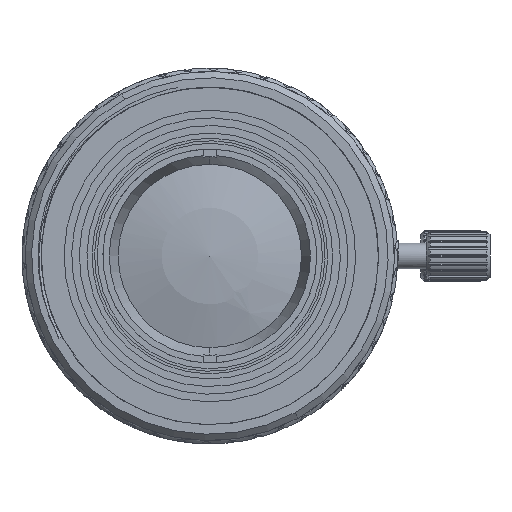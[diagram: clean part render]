
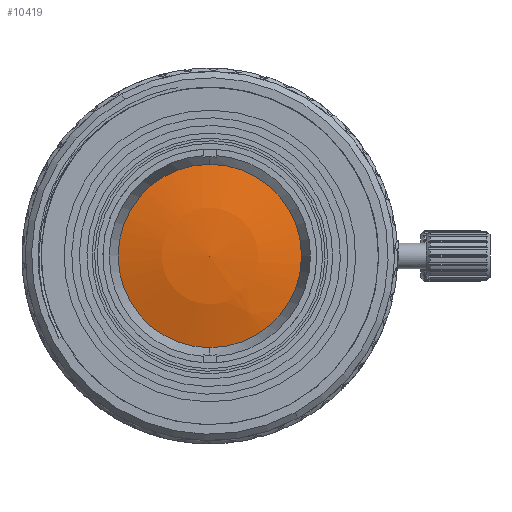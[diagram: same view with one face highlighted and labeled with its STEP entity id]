
A CAD part, left-side view. The second image highlights one B-rep face of the part: STEP entity #10419.
In plain terms, the highlighted spherical face has radius 26.55 mm.
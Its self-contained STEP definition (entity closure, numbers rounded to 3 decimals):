
#689 = CIRCLE ( 'NONE', #25146, 7.5 ) ;
#922 = EDGE_LOOP ( 'NONE', ( #11940, #28597 ) ) ;
#1550 = VERTEX_POINT ( 'NONE', #35426 ) ;
#4228 = AXIS2_PLACEMENT_3D ( 'NONE', #38721, #37772, #31320 ) ;
#4716 = CARTESIAN_POINT ( 'NONE',  ( 1717.993, -1069.949, 0. ) ) ;
#5221 = AXIS2_PLACEMENT_3D ( 'NONE', #4716, #41525, #22676 ) ;
#5725 = CARTESIAN_POINT ( 'NONE',  ( 1692.525, -1074.217, -6.167 ) ) ;
#10419 = ADVANCED_FACE ( 'NONE', ( #15493 ), #34129, .T. ) ;
#11552 = EDGE_CURVE ( 'NONE', #1550, #24506, #689, .T. ) ;
#11940 = ORIENTED_EDGE ( 'NONE', *, *, #11552, .T. ) ;
#14859 = DIRECTION ( 'NONE',  ( -1., 0., 0. ) ) ;
#15493 = FACE_OUTER_BOUND ( 'NONE', #922, .T. ) ;
#19150 = DIRECTION ( 'NONE',  ( 0., 0.569, 0.822 ) ) ;
#22676 = DIRECTION ( 'NONE',  ( 0., -0.569, -0.822 ) ) ;
#24506 = VERTEX_POINT ( 'NONE', #5725 ) ;
#25146 = AXIS2_PLACEMENT_3D ( 'NONE', #33035, #14859, #19150 ) ;
#28597 = ORIENTED_EDGE ( 'NONE', *, *, #29475, .T. ) ;
#29475 = EDGE_CURVE ( 'NONE', #24506, #1550, #37837, .T. ) ;
#31320 = DIRECTION ( 'NONE',  ( 0., 0.569, 0.822 ) ) ;
#33035 = CARTESIAN_POINT ( 'NONE',  ( 1692.525, -1069.949, 0. ) ) ;
#34129 = SPHERICAL_SURFACE ( 'NONE', #5221, 26.55 ) ;
#35426 = CARTESIAN_POINT ( 'NONE',  ( 1692.525, -1065.681, 6.167 ) ) ;
#37772 = DIRECTION ( 'NONE',  ( -1., 0., 0. ) ) ;
#37837 = CIRCLE ( 'NONE', #4228, 7.5 ) ;
#38721 = CARTESIAN_POINT ( 'NONE',  ( 1692.525, -1069.949, 0. ) ) ;
#41525 = DIRECTION ( 'NONE',  ( 1., 0., 0. ) ) ;
